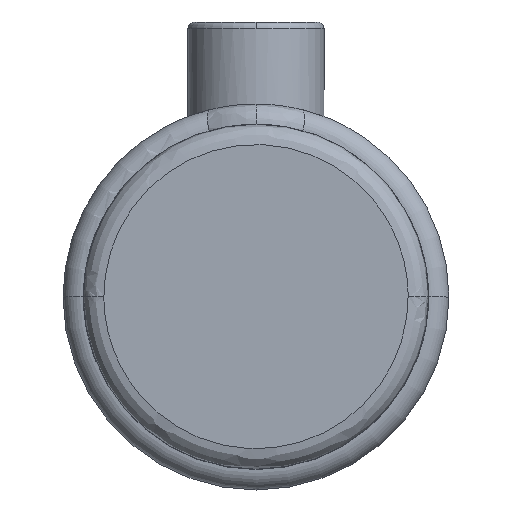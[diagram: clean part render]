
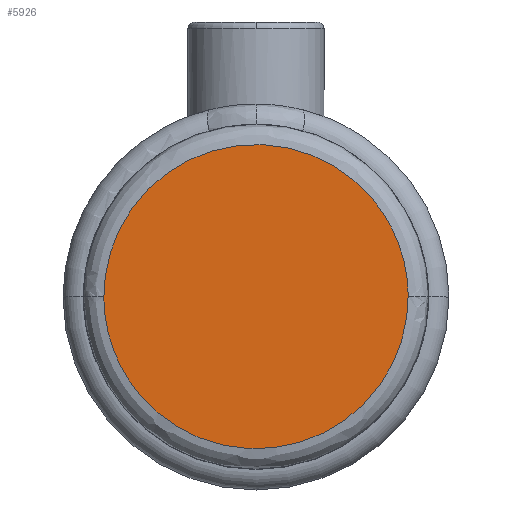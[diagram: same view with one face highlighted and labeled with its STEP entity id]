
A CAD part, top view. The second image highlights one B-rep face of the part: STEP entity #5926.
In plain terms, the highlighted planar face has unit normal (0, 0, 1).
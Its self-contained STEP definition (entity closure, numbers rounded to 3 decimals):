
#73 = CARTESIAN_POINT ( 'NONE',  ( 22.35, 0., 38. ) ) ;
#159 = CARTESIAN_POINT ( 'NONE',  ( -22.35, 0., 38. ) ) ;
#228 = ORIENTED_EDGE ( 'NONE', *, *, #4477, .F. ) ;
#438 = DIRECTION ( 'NONE',  ( 0., -1., 0. ) ) ;
#1146 =( BOUNDED_CURVE ( )  B_SPLINE_CURVE ( 3, ( #2478, #6263, #3109, #7521 ),
 .UNSPECIFIED., .F., .T. ) 
 B_SPLINE_CURVE_WITH_KNOTS ( ( 4, 4 ),
 ( 0.75, 1.25 ),
 .UNSPECIFIED. ) 
 CURVE ( )  GEOMETRIC_REPRESENTATION_ITEM ( )  RATIONAL_B_SPLINE_CURVE ( ( 1., 0.333, 0.333, 1. ) ) 
 REPRESENTATION_ITEM ( '' )  );
#1300 = CARTESIAN_POINT ( 'NONE',  ( -22.35, 0., 38. ) ) ;
#1585 = VERTEX_POINT ( 'NONE', #1300 ) ;
#2478 = CARTESIAN_POINT ( 'NONE',  ( -22.35, 0., 38. ) ) ;
#2582 = EDGE_LOOP ( 'NONE', ( #228, #6820 ) ) ;
#2706 = CARTESIAN_POINT ( 'NONE',  ( 22.35, -44.7, 38. ) ) ;
#3109 = CARTESIAN_POINT ( 'NONE',  ( 22.35, 44.7, 38. ) ) ;
#3593 = DIRECTION ( 'NONE',  ( 0., 0., 1. ) ) ;
#3959 = CARTESIAN_POINT ( 'NONE',  ( -22.35, -44.7, 38. ) ) ;
#4477 = EDGE_CURVE ( 'NONE', #5170, #1585, #7953, .T. ) ;
#5170 = VERTEX_POINT ( 'NONE', #6679 ) ;
#5913 = PLANE ( 'NONE',  #7599 ) ;
#5926 = ADVANCED_FACE ( 'NONE', ( #6365 ), #5913, .T. ) ;
#6263 = CARTESIAN_POINT ( 'NONE',  ( -22.35, 44.7, 38. ) ) ;
#6307 = EDGE_CURVE ( 'NONE', #1585, #5170, #1146, .T. ) ;
#6365 = FACE_OUTER_BOUND ( 'NONE', #2582, .T. ) ;
#6679 = CARTESIAN_POINT ( 'NONE',  ( 22.35, 0., 38. ) ) ;
#6820 = ORIENTED_EDGE ( 'NONE', *, *, #6307, .F. ) ;
#7391 = CARTESIAN_POINT ( 'NONE',  ( 0., 12.675, 38. ) ) ;
#7521 = CARTESIAN_POINT ( 'NONE',  ( 22.35, 0., 38. ) ) ;
#7599 = AXIS2_PLACEMENT_3D ( 'NONE', #7391, #3593, #438 ) ;
#7953 =( BOUNDED_CURVE ( )  B_SPLINE_CURVE ( 3, ( #73, #2706, #3959, #159 ),
 .UNSPECIFIED., .F., .T. ) 
 B_SPLINE_CURVE_WITH_KNOTS ( ( 4, 4 ),
 ( 0.25, 0.75 ),
 .UNSPECIFIED. ) 
 CURVE ( )  GEOMETRIC_REPRESENTATION_ITEM ( )  RATIONAL_B_SPLINE_CURVE ( ( 1., 0.333, 0.333, 1. ) ) 
 REPRESENTATION_ITEM ( '' )  );
